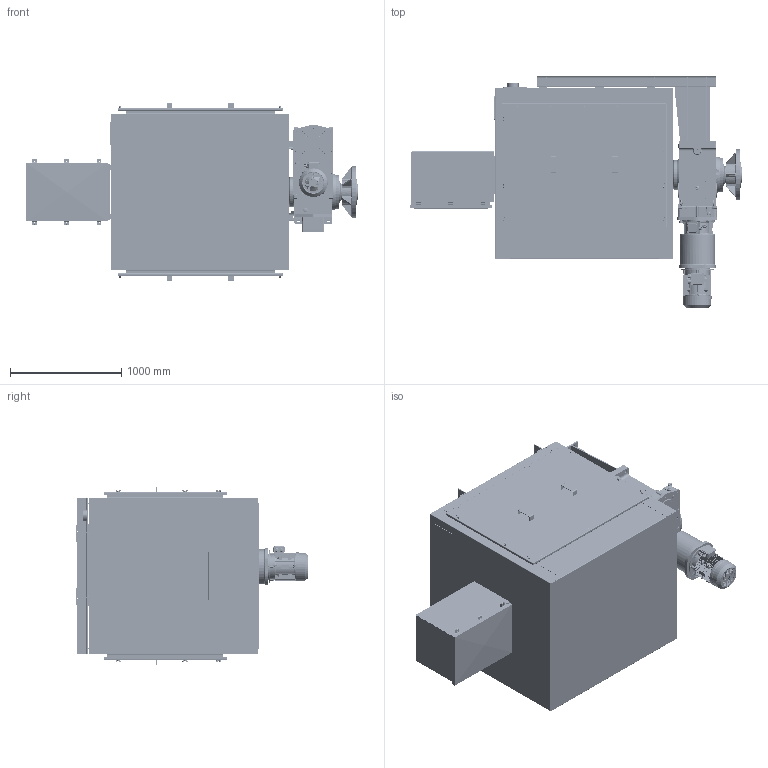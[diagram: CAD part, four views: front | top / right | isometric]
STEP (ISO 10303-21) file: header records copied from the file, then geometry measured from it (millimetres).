
FILE_DESCRIPTION(/* description */ (''),/* implementation_level */ '2;1');
FILE_NAME(/* name */ 'K:\NEMANJA\CABLE REEL\CABLE REEL DA\0700-6\07006002 DAPR-MCGBSR\STEP\75945.stp',/* time_stamp */ '2017-03-16T13:25:05+01:00',/* author */ ('vlakrc01'),/* organization */ ('Hillmar Industries Ltd.'),/* preprocessor_version */ 'ST-DEVELOPER v16.1',/* originating_system */ 'Autodesk Inventor 2016',/* authorisation */ '');
FILE_SCHEMA (('AUTOMOTIVE_DESIGN { 1 0 10303 214 3 1 1 }'));
Products named in the file (1): 75945
Bounding box: 2980.69 x 2087.71 x 1606.6 mm (x, y, z)
Volume: 146902727 mm3; surface area: 50013636.7 mm2
Topology: 21 solids, 21 shells, 7889 faces, 21298 edges, 13662 vertices
Faces by surface type: plane 4490, cylinder 1800, bspline 815, cone 446, torus 302, sphere 36
Full cylindrical faces by diameter (mm): 3 x4, 7 x1, 8 x3, 8.376 x27, 8.731 x1, 9 x4, 10 x34, 10.106 x92, 11 x20, 12 x29, 12.5 x6, 13 x66, 13.5 x12, 14 x20, 14.5 x8, 15 x8, 18 x1, 18.256 x3, 18.38 x1, 20 x22, 20.5 x4, 21.336 x1, 22 x20, 22.225 x1, 22.3 x1, 23.376 x1, 23.812 x2, 24.917 x1, 24.918 x1, 25 x4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
Entity records: 271504 total; most frequent: CARTESIAN_POINT 74203, ORIENTED_EDGE 40088, DIRECTION 36465, EDGE_CURVE 20030, VERTEX_POINT 13205, AXIS2_PLACEMENT_3D 12191, LINE 12083, VECTOR 12083
